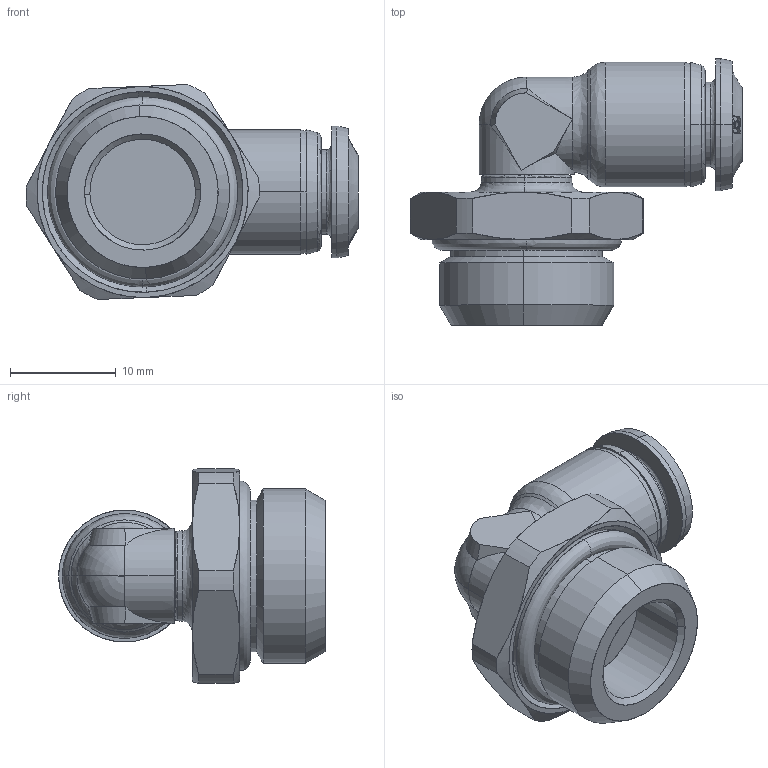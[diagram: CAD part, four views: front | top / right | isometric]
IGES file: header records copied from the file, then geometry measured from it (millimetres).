
Start section: SolidWorks IGES file using analytic representation for surfaces
Global section: file name: K:\Disegni Esecutivi\Serie 55000\ASSIEMI_55000\55116\ASSIEMI_PIENI_55116\5511600015.IGS; native system: SolidWorks 2007; preprocessor: SolidWorks 2007; author: cad02; date: 071126.084622; units: millimetre
Bounding box: 31.45 x 25.25 x 20.36 mm (x, y, z)
Surface area: 3200.6 mm2 (no closed solid volume)
Topology: 0 solids, 0 shells, 188 faces, 2169 edges, 2167 vertices
Faces by surface type: bspline 105, revolution 83
